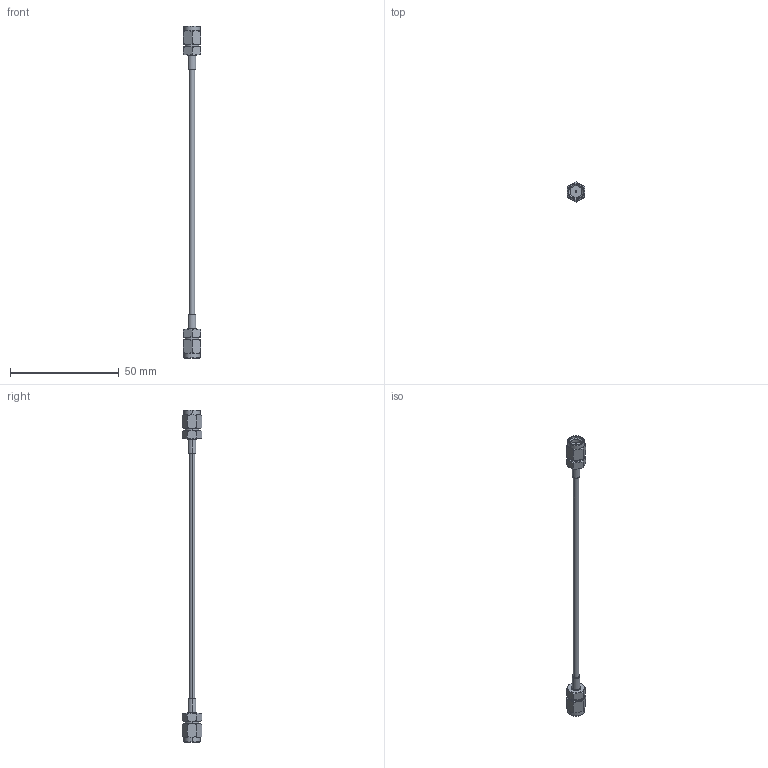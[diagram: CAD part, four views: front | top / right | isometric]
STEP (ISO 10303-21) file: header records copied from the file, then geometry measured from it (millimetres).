
FILE_DESCRIPTION (( 'STEP AP214' ), '1' );
FILE_NAME ('7015-0803.STEP', '2018-12-14T13:36:37', ( '' ), ( '' ), 'SwSTEP 2.0', 'SolidWorks 2016', '' );
FILE_SCHEMA (( 'AUTOMOTIVE_DESIGN' ));
Length unit declared in the file: inch
Products named in the file (1): 7015-0803
Bounding box: 7.92 x 9.15 x 152.4 mm (x, y, z)
Volume: 1899.3 mm3; surface area: 2160.8 mm2
Topology: 1 solids, 1 shells, 146 faces, 322 edges, 196 vertices
Faces by surface type: cone 52, plane 44, cylinder 38, torus 12
Entity records: 6136 total; most frequent: CARTESIAN_POINT 1089, DIRECTION 672, ORIENTED_EDGE 644, EDGE_CURVE 322, AXIS2_PLACEMENT_3D 291, VERTEX_POINT 196, EDGE_LOOP 164, FACE_OUTER_BOUND 146
